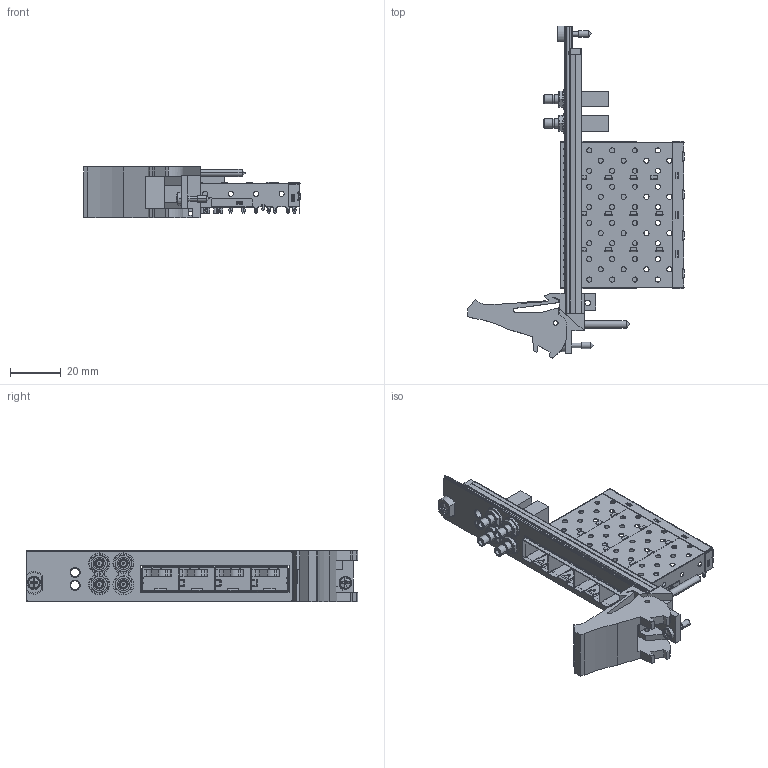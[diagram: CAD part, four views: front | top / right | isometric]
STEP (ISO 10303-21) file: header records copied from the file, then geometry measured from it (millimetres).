
FILE_DESCRIPTION((''),'2;1');
FILE_NAME('CU_PXIE-6592R','2015-04-06T',('jjorden'),(''),'PRO/ENGINEER BY PARAMETRIC TECHNOLOGY CORPORATION, 2014000','PRO/ENGINEER BY PARAMETRIC TECHNOLOGY CORPORATION, 2014000','');
FILE_SCHEMA(('CONFIG_CONTROL_DESIGN'));
Length unit declared in the file: inch
Products named in the file (1): CU_PXIE-6592R
Bounding box: 85.12 x 130.5 x 20.31 mm (x, y, z)
Volume: 18636.3 mm3; surface area: 32822.7 mm2
Topology: 3 solids, 3 shells, 3045 faces, 9118 edges, 6004 vertices
Faces by surface type: plane 1604, cylinder 1373, cone 36, torus 16, sphere 16
Entity records: 107413 total; most frequent: CARTESIAN_POINT 22272, ORIENTED_EDGE 18228, DIRECTION 17734, EDGE_CURVE 9114, VECTOR 6020, LINE 6020, VERTEX_POINT 6004, AXIS2_PLACEMENT_3D 5857
